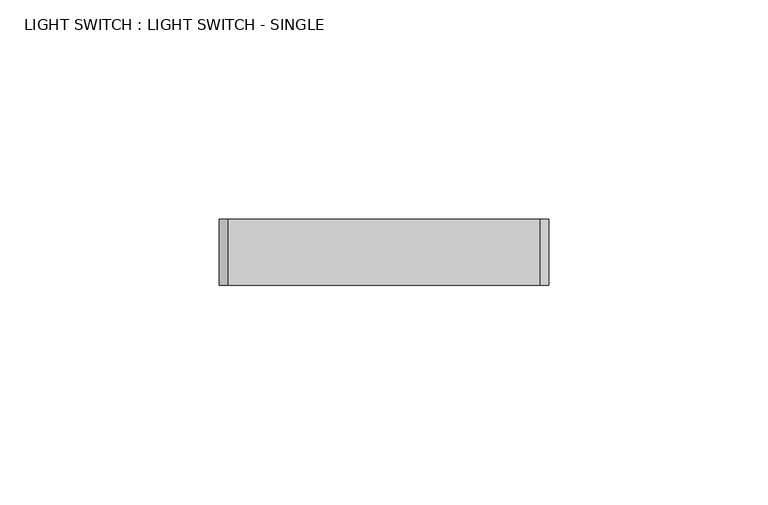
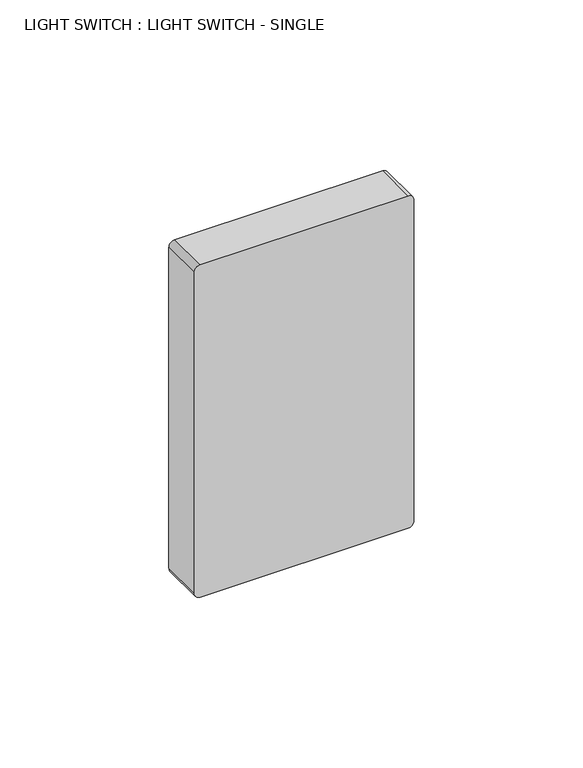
"""IFC4 building model written with IfcOpenShell, lengths in millimetres: proxy geometry, LIGHT SWITCH : LIGHT SWITCH - SINGLE."""

from ifc_helpers import new_model, si_unit, point, frame, frame_2d, origin, place, context, project, spatial, polyline, circle_curve, trimmed, segment, composite_curve, outline, extrude, source, transform, mapped, element, save


def light_switch_light_switch_single_3a2151b2(model_context):
    return source(origin(), model_context, "Body", "SweptSolid", [
        extrude(outline(composite_curve([segment(trimmed(circle_curve(frame_2d((58.0, -35.5)), 2.0), [point((60.0, -35.5))], [point((58.0, -37.5))], False, "CARTESIAN"), True, "CONTINUOUS"), segment(polyline([(58.0, -37.5), (-58.0, -37.5)]), True, "CONTINUOUS"), segment(trimmed(circle_curve(frame_2d((-58.0, -35.5)), 2.0), [point((-58.0, -37.5))], [point((-60.0, -35.5))], False, "CARTESIAN"), True, "CONTINUOUS"), segment(polyline([(-60.0, -35.5), (-60.0, 35.5)]), True, "CONTINUOUS"), segment(trimmed(circle_curve(frame_2d((-58.0, 35.5)), 2.0), [point((-60.0, 35.5))], [point((-58.0, 37.5))], False, "CARTESIAN"), True, "CONTINUOUS"), segment(polyline([(-58.0, 37.5), (58.0, 37.5)]), True, "CONTINUOUS"), segment(trimmed(circle_curve(frame_2d((58.0, 35.5)), 2.0), [point((58.0, 37.5))], [point((60.0, 35.5))], False, "CARTESIAN"), True, "CONTINUOUS"), segment(polyline([(60.0, 35.5), (60.0, -35.5)]), True, "CONTINUOUS")], self_intersect=False)), frame((0.0, -15.0, 0.0), z_axis=(0.0, 1.0, 0.0), x_axis=(0.0, 0.0, 1.0)), (0.0, 0.0, 1.0), 15.0),
    ])


if __name__ == "__main__":
    model = new_model("IFC4")
    model_context = context("Model", 3, world=origin())
    ifc_project = project(units=[si_unit("LENGTHUNIT", "METRE", prefix="MILLI")], contexts=[model_context])
    site = spatial("IfcSite", under=ifc_project)
    building = spatial("IfcBuilding", under=site)
    placement = place(None, origin())
    light_switch_light_switch_single_shape = light_switch_light_switch_single_3a2151b2(model_context)
    element("IfcBuildingElementProxy", 1, Name="LIGHT SWITCH : LIGHT SWITCH - SINGLE", ObjectType="LIGHT SWITCH : LIGHT SWITCH - SINGLE", at=placement, inside=building, context=model_context, shape_type="MappedRepresentation", body=[
        mapped(light_switch_light_switch_single_shape, transform((0.0, 0.0, 0.0), x_axis=(1.0, 0.0, 0.0), y_axis=(0.0, 1.0, 0.0), z_axis=(0.0, 0.0, 1.0))),
    ])
    save(model, "model.ifc")
